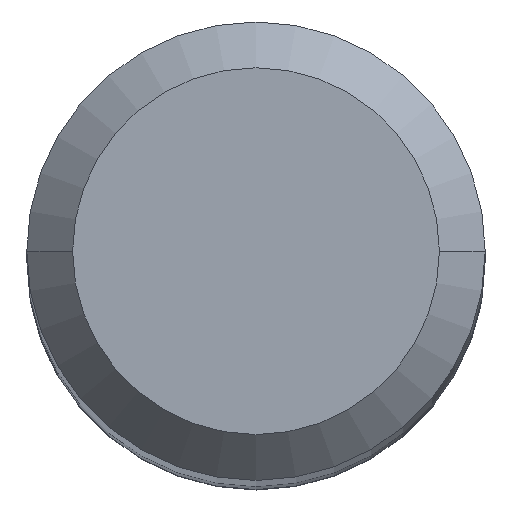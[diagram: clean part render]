
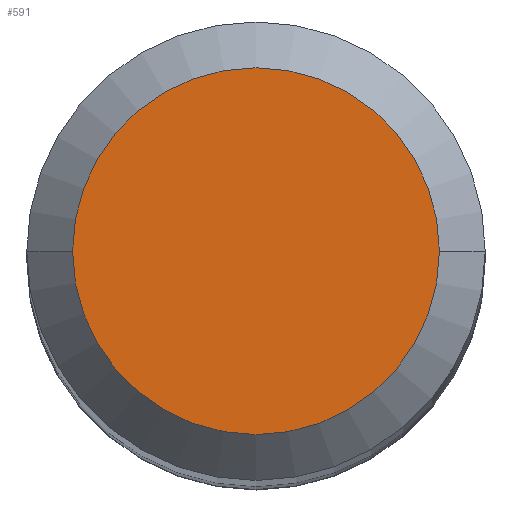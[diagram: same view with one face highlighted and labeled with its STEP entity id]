
A CAD part, top view. The second image highlights one B-rep face of the part: STEP entity #591.
In plain terms, the highlighted planar face has unit normal (0, 0, 1).
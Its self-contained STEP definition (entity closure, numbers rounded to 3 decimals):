
#9 = DIRECTION ( 'NONE',  ( -1., 0., 0. ) ) ;
#86 = EDGE_LOOP ( 'NONE', ( #492, #330 ) ) ;
#92 = PLANE ( 'NONE',  #543 ) ;
#97 = DIRECTION ( 'NONE',  ( -1., 0., 0. ) ) ;
#135 = DIRECTION ( 'NONE',  ( 0., 0., 1. ) ) ;
#150 = AXIS2_PLACEMENT_3D ( 'NONE', #155, #343, #9 ) ;
#155 = CARTESIAN_POINT ( 'NONE',  ( 0., 0., 0. ) ) ;
#184 = DIRECTION ( 'NONE',  ( 1., 0., 0. ) ) ;
#257 = CARTESIAN_POINT ( 'NONE',  ( 2.4, 0., 0. ) ) ;
#298 = EDGE_CURVE ( 'NONE', #510, #419, #323, .T. ) ;
#308 = CIRCLE ( 'NONE', #150, 2.4 ) ;
#314 = AXIS2_PLACEMENT_3D ( 'NONE', #331, #453, #97 ) ;
#323 = CIRCLE ( 'NONE', #314, 2.4 ) ;
#330 = ORIENTED_EDGE ( 'NONE', *, *, #298, .F. ) ;
#331 = CARTESIAN_POINT ( 'NONE',  ( 0., 0., 0. ) ) ;
#337 = CARTESIAN_POINT ( 'NONE',  ( -2.4, 0., 0. ) ) ;
#343 = DIRECTION ( 'NONE',  ( 0., 0., -1. ) ) ;
#359 = EDGE_CURVE ( 'NONE', #419, #510, #308, .T. ) ;
#419 = VERTEX_POINT ( 'NONE', #337 ) ;
#453 = DIRECTION ( 'NONE',  ( 0., 0., -1. ) ) ;
#492 = ORIENTED_EDGE ( 'NONE', *, *, #359, .F. ) ;
#510 = VERTEX_POINT ( 'NONE', #257 ) ;
#543 = AXIS2_PLACEMENT_3D ( 'NONE', #564, #135, #184 ) ;
#564 = CARTESIAN_POINT ( 'NONE',  ( 0., 2.4, 0. ) ) ;
#591 = ADVANCED_FACE ( 'NONE', ( #605 ), #92, .T. ) ;
#605 = FACE_OUTER_BOUND ( 'NONE', #86, .T. ) ;
